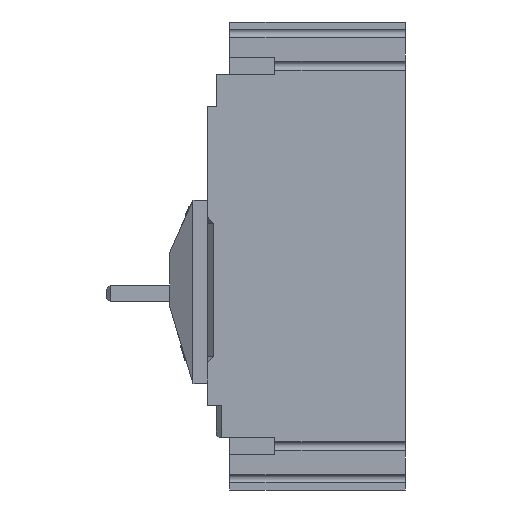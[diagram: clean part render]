
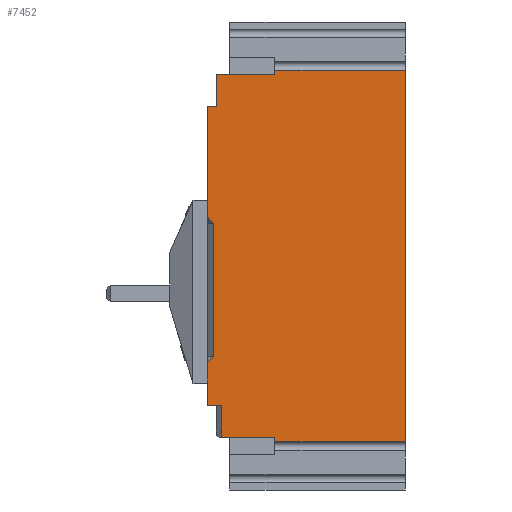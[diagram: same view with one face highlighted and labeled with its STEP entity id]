
A CAD part, left-side view. The second image highlights one B-rep face of the part: STEP entity #7452.
In plain terms, the highlighted planar face has unit normal (-1, 0, 0).
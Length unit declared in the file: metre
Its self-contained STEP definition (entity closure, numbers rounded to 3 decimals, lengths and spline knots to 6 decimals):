
#760=FACE_OUTER_BOUND('',#1250,.T.);
#1250=EDGE_LOOP('',(#6502,#6503,#6504,#6505,#6506,#6507,#6508,#6509,#6510,
#6511,#6512,#6513,#6514,#6515,#6516,#6517));
#1870=LINE('',#11462,#2731);
#1959=LINE('',#11661,#2820);
#1960=LINE('',#11665,#2821);
#1961=LINE('',#11741,#2822);
#2015=LINE('',#11923,#2876);
#2018=LINE('',#11927,#2879);
#2090=LINE('',#12100,#2951);
#2093=LINE('',#12107,#2954);
#2096=LINE('',#12113,#2957);
#2098=LINE('',#12117,#2959);
#2099=LINE('',#12119,#2960);
#2100=LINE('',#12121,#2961);
#2101=LINE('',#12122,#2962);
#2102=LINE('',#12124,#2963);
#2103=LINE('',#12126,#2964);
#2104=LINE('',#12127,#2965);
#2731=VECTOR('',#9323,0.0295);
#2820=VECTOR('',#9500,0.0022);
#2821=VECTOR('',#9505,0.0725);
#2822=VECTOR('',#9604,0.0725);
#2876=VECTOR('',#9784,0.0325);
#2879=VECTOR('',#9789,0.002196);
#2951=VECTOR('',#9951,0.018007);
#2954=VECTOR('',#9956,0.00495);
#2957=VECTOR('',#9961,0.074);
#2959=VECTOR('',#9965,0.00495);
#2960=VECTOR('',#9968,0.206387);
#2961=VECTOR('',#9969,0.005);
#2962=VECTOR('',#9970,0.0613);
#2963=VECTOR('',#9971,0.0237);
#2964=VECTOR('',#9972,0.008);
#2965=VECTOR('',#9973,0.017994);
#3447=VERTEX_POINT('',#11459);
#3448=VERTEX_POINT('',#11461);
#3514=VERTEX_POINT('',#11659);
#3515=VERTEX_POINT('',#11663);
#3540=VERTEX_POINT('',#11739);
#3541=VERTEX_POINT('',#11740);
#3605=VERTEX_POINT('',#11920);
#3606=VERTEX_POINT('',#11922);
#3662=VERTEX_POINT('',#12098);
#3663=VERTEX_POINT('',#12102);
#3665=VERTEX_POINT('',#12105);
#3667=VERTEX_POINT('',#12111);
#3668=VERTEX_POINT('',#12115);
#3669=VERTEX_POINT('',#12120);
#3670=VERTEX_POINT('',#12123);
#3671=VERTEX_POINT('',#12125);
#4349=EDGE_CURVE('',#3448,#3447,#1870,.T.);
#4450=EDGE_CURVE('',#3447,#3514,#1959,.T.);
#4452=EDGE_CURVE('',#3515,#3514,#1960,.T.);
#4477=EDGE_CURVE('',#3540,#3541,#1961,.T.);
#4561=EDGE_CURVE('',#3606,#3605,#2015,.T.);
#4564=EDGE_CURVE('',#3606,#3540,#2018,.T.);
#4651=EDGE_CURVE('',#3662,#3605,#2090,.T.);
#4654=EDGE_CURVE('',#3665,#3663,#2093,.T.);
#4657=EDGE_CURVE('',#3667,#3665,#2096,.T.);
#4659=EDGE_CURVE('',#3668,#3667,#2098,.T.);
#4660=EDGE_CURVE('',#3515,#3541,#2099,.T.);
#4661=EDGE_CURVE('',#3662,#3669,#2100,.T.);
#4662=EDGE_CURVE('',#3663,#3669,#2101,.T.);
#4663=EDGE_CURVE('',#3670,#3668,#2102,.T.);
#4664=EDGE_CURVE('',#3670,#3671,#2103,.T.);
#4665=EDGE_CURVE('',#3448,#3671,#2104,.T.);
#6502=ORIENTED_EDGE('',*,*,#4349,.T.);
#6503=ORIENTED_EDGE('',*,*,#4450,.T.);
#6504=ORIENTED_EDGE('',*,*,#4452,.F.);
#6505=ORIENTED_EDGE('',*,*,#4660,.T.);
#6506=ORIENTED_EDGE('',*,*,#4477,.F.);
#6507=ORIENTED_EDGE('',*,*,#4564,.F.);
#6508=ORIENTED_EDGE('',*,*,#4561,.T.);
#6509=ORIENTED_EDGE('',*,*,#4651,.F.);
#6510=ORIENTED_EDGE('',*,*,#4661,.T.);
#6511=ORIENTED_EDGE('',*,*,#4662,.F.);
#6512=ORIENTED_EDGE('',*,*,#4654,.F.);
#6513=ORIENTED_EDGE('',*,*,#4657,.F.);
#6514=ORIENTED_EDGE('',*,*,#4659,.F.);
#6515=ORIENTED_EDGE('',*,*,#4663,.F.);
#6516=ORIENTED_EDGE('',*,*,#4664,.T.);
#6517=ORIENTED_EDGE('',*,*,#4665,.F.);
#7040=PLANE('',#8028);
#7452=ADVANCED_FACE('',(#760),#7040,.T.);
#8028=AXIS2_PLACEMENT_3D('',#12118,#9966,#9967);
#9323=DIRECTION('',(0.,-1.,0.));
#9500=DIRECTION('',(0.,0.,-1.));
#9505=DIRECTION('',(0.,1.,0.));
#9604=DIRECTION('',(0.,-1.,0.));
#9784=DIRECTION('',(0.,1.,0.));
#9789=DIRECTION('',(0.,0.,1.));
#9951=DIRECTION('',(0.,0.,1.));
#9956=DIRECTION('',(0.,0.707,0.707));
#9961=DIRECTION('',(0.,0.,1.));
#9965=DIRECTION('',(0.,-0.707,0.707));
#9966=DIRECTION('center_axis',(-1.,0.,0.));
#9967=DIRECTION('ref_axis',(0.,0.,1.));
#9968=DIRECTION('',(0.,0.,1.));
#9969=DIRECTION('',(0.,1.,0.));
#9970=DIRECTION('',(0.,0.,1.));
#9971=DIRECTION('',(0.,0.,1.));
#9972=DIRECTION('',(0.,-1.,0.));
#9973=DIRECTION('',(0.,0.,1.));
#11459=CARTESIAN_POINT('',(-0.07,-0.025,-0.100994));
#11461=CARTESIAN_POINT('',(-0.07,0.0045,-0.100994));
#11462=CARTESIAN_POINT('',(-0.07,0.0045,-0.100994));
#11659=CARTESIAN_POINT('',(-0.07,-0.025,-0.103193));
#11661=CARTESIAN_POINT('',(-0.07,-0.025,-0.100993));
#11663=CARTESIAN_POINT('',(-0.07,-0.0975,-0.103193));
#11665=CARTESIAN_POINT('',(-0.07,-0.0975,-0.103193));
#11739=CARTESIAN_POINT('',(-0.07,-0.025,0.103193));
#11740=CARTESIAN_POINT('',(-0.07,-0.0975,0.103193));
#11741=CARTESIAN_POINT('',(-0.07,-0.025,0.103193));
#11920=CARTESIAN_POINT('',(-0.07,0.0075,0.101007));
#11922=CARTESIAN_POINT('',(-0.07,-0.025,0.101007));
#11923=CARTESIAN_POINT('',(-0.07,-0.025,0.101007));
#11927=CARTESIAN_POINT('',(-0.07,-0.025,0.100998));
#12098=CARTESIAN_POINT('',(-0.07,0.0075,0.083));
#12100=CARTESIAN_POINT('',(-0.07,0.0075,0.083));
#12102=CARTESIAN_POINT('',(-0.07,0.0125,0.0217));
#12105=CARTESIAN_POINT('',(-0.07,0.009,0.0182));
#12107=CARTESIAN_POINT('',(-0.07,0.009,0.0182));
#12111=CARTESIAN_POINT('',(-0.07,0.009,-0.0558));
#12113=CARTESIAN_POINT('',(-0.07,0.009,-0.0558));
#12115=CARTESIAN_POINT('',(-0.07,0.0125,-0.0593));
#12117=CARTESIAN_POINT('',(-0.07,0.0125,-0.0593));
#12118=CARTESIAN_POINT('Origin',(-0.07,0.,-0.13));
#12119=CARTESIAN_POINT('',(-0.07,-0.0975,-0.103193));
#12120=CARTESIAN_POINT('',(-0.07,0.0125,0.083));
#12121=CARTESIAN_POINT('',(-0.07,0.0075,0.083));
#12122=CARTESIAN_POINT('',(-0.07,0.0125,0.0217));
#12123=CARTESIAN_POINT('',(-0.07,0.0125,-0.083));
#12124=CARTESIAN_POINT('',(-0.07,0.0125,-0.083));
#12125=CARTESIAN_POINT('',(-0.07,0.0045,-0.083));
#12126=CARTESIAN_POINT('',(-0.07,0.0125,-0.083));
#12127=CARTESIAN_POINT('',(-0.07,0.0045,-0.100994));
